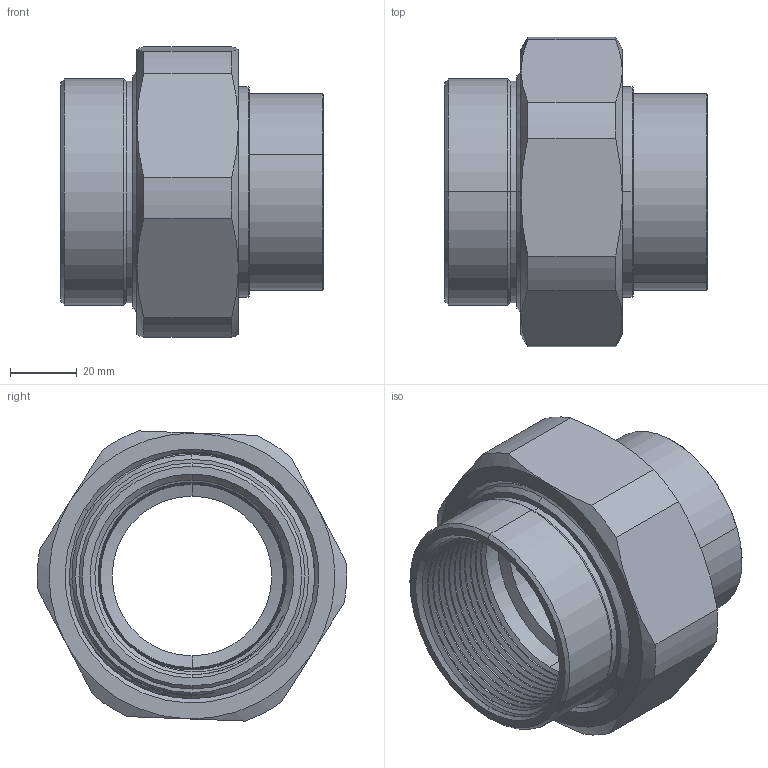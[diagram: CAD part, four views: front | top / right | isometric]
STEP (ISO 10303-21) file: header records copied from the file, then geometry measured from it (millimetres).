
FILE_DESCRIPTION(('Open CASCADE Model'),'2;1');
FILE_NAME('Open CASCADE Shape Model','2022-04-19T10:15:37',('Author'),( 'Open CASCADE'),'Open CASCADE STEP processor 7.3','Open CASCADE 7.3' ,'Unknown');
FILE_SCHEMA(('AUTOMOTIVE_DESIGN { 1 0 10303 214 1 1 1 1 }'));
Length unit declared in the file: millimetre
Products named in the file (6): Open CASCADE STEP translator 7.3 1; Open CASCADE STEP translator 7.3 1.1; Open CASCADE STEP translator 7.3 1.2; Open CASCADE STEP translator 7.3 1.3; Open CASCADE STEP translator 7.3 1.4; Open CASCADE STEP translator 7.3 1.5
Assembly tree (5 placements, depth 2):
  Open CASCADE STEP translator 7.3 1
    Open CASCADE STEP translator 7.3 1.1
    Open CASCADE STEP translator 7.3 1.2
    Open CASCADE STEP translator 7.3 1.3
    Open CASCADE STEP translator 7.3 1.4
    Open CASCADE STEP translator 7.3 1.5
Bounding box: 78.9 x 93 x 87.29 mm (x, y, z)
Volume: 157210.6 mm3; surface area: 77422.2 mm2
Topology: 5 solids, 5 shells, 173 faces, 418 edges, 262 vertices
Faces by surface type: cone 71, cylinder 65, plane 25, bspline 6, torus 6
Entity records: 34768 total; most frequent: CARTESIAN_POINT 26977, DIRECTION 1256, ORIENTED_EDGE 836, PCURVE 836, DEFINITIONAL_REPRESENTATION 836, LINE 591, VECTOR 591, EDGE_CURVE 418
